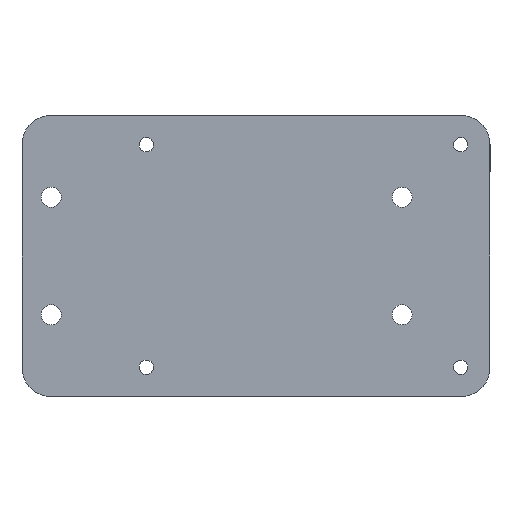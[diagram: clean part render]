
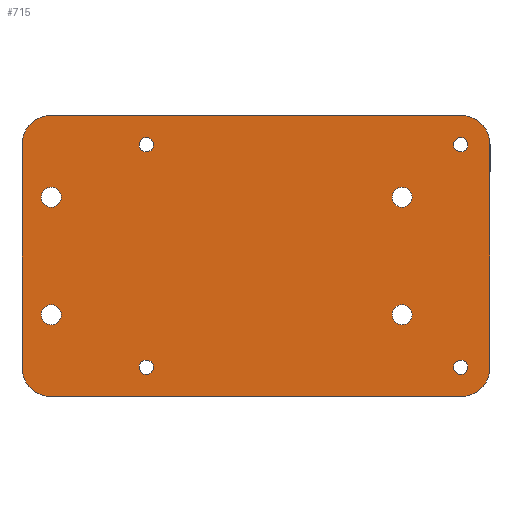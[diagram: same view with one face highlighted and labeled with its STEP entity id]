
A CAD part, front view. The second image highlights one B-rep face of the part: STEP entity #715.
In plain terms, the highlighted planar face has unit normal (0, -1, 0).
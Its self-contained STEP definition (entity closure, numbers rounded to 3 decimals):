
#15=FACE_BOUND('',#99,.T.);
#16=FACE_BOUND('',#100,.T.);
#17=FACE_BOUND('',#101,.T.);
#18=FACE_BOUND('',#102,.T.);
#19=FACE_BOUND('',#103,.T.);
#20=FACE_BOUND('',#104,.T.);
#21=FACE_BOUND('',#105,.T.);
#22=FACE_BOUND('',#106,.T.);
#37=PLANE('',#790);
#61=FACE_OUTER_BOUND('',#98,.T.);
#98=EDGE_LOOP('',(#533,#534,#535,#536,#537,#538,#539,#540));
#99=EDGE_LOOP('',(#541));
#100=EDGE_LOOP('',(#542));
#101=EDGE_LOOP('',(#543));
#102=EDGE_LOOP('',(#544));
#103=EDGE_LOOP('',(#545));
#104=EDGE_LOOP('',(#546));
#105=EDGE_LOOP('',(#547));
#106=EDGE_LOOP('',(#548));
#159=LINE('',#1169,#209);
#162=LINE('',#1175,#212);
#163=LINE('',#1179,#213);
#164=LINE('',#1183,#214);
#209=VECTOR('',#937,10.);
#212=VECTOR('',#942,10.);
#213=VECTOR('',#945,10.);
#214=VECTOR('',#948,10.);
#254=CIRCLE('',#787,5.);
#256=CIRCLE('',#791,5.);
#257=CIRCLE('',#792,5.);
#258=CIRCLE('',#793,5.);
#259=CIRCLE('',#794,1.7);
#260=CIRCLE('',#795,1.7);
#261=CIRCLE('',#796,1.23);
#262=CIRCLE('',#797,1.23);
#263=CIRCLE('',#798,1.23);
#264=CIRCLE('',#799,1.23);
#265=CIRCLE('',#800,1.7);
#266=CIRCLE('',#801,1.7);
#317=VERTEX_POINT('',#1159);
#318=VERTEX_POINT('',#1160);
#321=VERTEX_POINT('',#1168);
#323=VERTEX_POINT('',#1174);
#324=VERTEX_POINT('',#1176);
#325=VERTEX_POINT('',#1178);
#326=VERTEX_POINT('',#1180);
#327=VERTEX_POINT('',#1182);
#328=VERTEX_POINT('',#1185);
#329=VERTEX_POINT('',#1187);
#330=VERTEX_POINT('',#1189);
#331=VERTEX_POINT('',#1191);
#332=VERTEX_POINT('',#1193);
#333=VERTEX_POINT('',#1195);
#334=VERTEX_POINT('',#1197);
#335=VERTEX_POINT('',#1199);
#399=EDGE_CURVE('',#317,#318,#254,.T.);
#403=EDGE_CURVE('',#321,#318,#159,.T.);
#406=EDGE_CURVE('',#317,#323,#162,.T.);
#407=EDGE_CURVE('',#324,#323,#256,.T.);
#408=EDGE_CURVE('',#324,#325,#163,.T.);
#409=EDGE_CURVE('',#326,#325,#257,.T.);
#410=EDGE_CURVE('',#326,#327,#164,.T.);
#411=EDGE_CURVE('',#321,#327,#258,.T.);
#412=EDGE_CURVE('',#328,#328,#259,.T.);
#413=EDGE_CURVE('',#329,#329,#260,.T.);
#414=EDGE_CURVE('',#330,#330,#261,.T.);
#415=EDGE_CURVE('',#331,#331,#262,.T.);
#416=EDGE_CURVE('',#332,#332,#263,.T.);
#417=EDGE_CURVE('',#333,#333,#264,.T.);
#418=EDGE_CURVE('',#334,#334,#265,.T.);
#419=EDGE_CURVE('',#335,#335,#266,.T.);
#533=ORIENTED_EDGE('',*,*,#399,.F.);
#534=ORIENTED_EDGE('',*,*,#406,.T.);
#535=ORIENTED_EDGE('',*,*,#407,.F.);
#536=ORIENTED_EDGE('',*,*,#408,.T.);
#537=ORIENTED_EDGE('',*,*,#409,.F.);
#538=ORIENTED_EDGE('',*,*,#410,.T.);
#539=ORIENTED_EDGE('',*,*,#411,.F.);
#540=ORIENTED_EDGE('',*,*,#403,.T.);
#541=ORIENTED_EDGE('',*,*,#412,.T.);
#542=ORIENTED_EDGE('',*,*,#413,.T.);
#543=ORIENTED_EDGE('',*,*,#414,.T.);
#544=ORIENTED_EDGE('',*,*,#415,.T.);
#545=ORIENTED_EDGE('',*,*,#416,.T.);
#546=ORIENTED_EDGE('',*,*,#417,.T.);
#547=ORIENTED_EDGE('',*,*,#418,.T.);
#548=ORIENTED_EDGE('',*,*,#419,.T.);
#715=ADVANCED_FACE('',(#61,#15,#16,#17,#18,#19,#20,#21,#22),#37,.T.);
#787=AXIS2_PLACEMENT_3D('',#1161,#929,#930);
#790=AXIS2_PLACEMENT_3D('',#1173,#940,#941);
#791=AXIS2_PLACEMENT_3D('',#1177,#943,#944);
#792=AXIS2_PLACEMENT_3D('',#1181,#946,#947);
#793=AXIS2_PLACEMENT_3D('',#1184,#949,#950);
#794=AXIS2_PLACEMENT_3D('',#1186,#951,#952);
#795=AXIS2_PLACEMENT_3D('',#1188,#953,#954);
#796=AXIS2_PLACEMENT_3D('',#1190,#955,#956);
#797=AXIS2_PLACEMENT_3D('',#1192,#957,#958);
#798=AXIS2_PLACEMENT_3D('',#1194,#959,#960);
#799=AXIS2_PLACEMENT_3D('',#1196,#961,#962);
#800=AXIS2_PLACEMENT_3D('',#1198,#963,#964);
#801=AXIS2_PLACEMENT_3D('',#1200,#965,#966);
#929=DIRECTION('center_axis',(0.,1.,0.));
#930=DIRECTION('ref_axis',(-0.707,0.,-0.707));
#937=DIRECTION('',(0.,0.,-1.));
#940=DIRECTION('center_axis',(0.,-1.,0.));
#941=DIRECTION('ref_axis',(0.,0.,-1.));
#942=DIRECTION('',(1.,0.,0.));
#943=DIRECTION('center_axis',(0.,1.,0.));
#944=DIRECTION('ref_axis',(0.707,0.,-0.707));
#945=DIRECTION('',(0.,0.,1.));
#946=DIRECTION('center_axis',(0.,1.,0.));
#947=DIRECTION('ref_axis',(0.707,0.,0.707));
#948=DIRECTION('',(-1.,0.,0.));
#949=DIRECTION('center_axis',(0.,1.,0.));
#950=DIRECTION('ref_axis',(-0.707,0.,0.707));
#951=DIRECTION('center_axis',(0.,1.,0.));
#952=DIRECTION('ref_axis',(-1.,0.,0.));
#953=DIRECTION('center_axis',(0.,1.,0.));
#954=DIRECTION('ref_axis',(-1.,0.,0.));
#955=DIRECTION('center_axis',(0.,1.,0.));
#956=DIRECTION('ref_axis',(-1.,0.,0.));
#957=DIRECTION('center_axis',(0.,1.,0.));
#958=DIRECTION('ref_axis',(-1.,0.,0.));
#959=DIRECTION('center_axis',(0.,1.,0.));
#960=DIRECTION('ref_axis',(-1.,0.,0.));
#961=DIRECTION('center_axis',(0.,1.,0.));
#962=DIRECTION('ref_axis',(-1.,0.,0.));
#963=DIRECTION('center_axis',(0.,1.,0.));
#964=DIRECTION('ref_axis',(-1.,0.,0.));
#965=DIRECTION('center_axis',(0.,1.,0.));
#966=DIRECTION('ref_axis',(-1.,0.,0.));
#1159=CARTESIAN_POINT('',(-74.8,-5.,-47.973));
#1160=CARTESIAN_POINT('',(-79.8,-5.,-42.973));
#1161=CARTESIAN_POINT('Origin',(-74.8,-5.,-42.973));
#1168=CARTESIAN_POINT('',(-79.8,-5.,-5.));
#1169=CARTESIAN_POINT('',(-79.8,-5.,-47.973));
#1173=CARTESIAN_POINT('Origin',(-39.9,-5.,-23.986));
#1174=CARTESIAN_POINT('',(-5.,-5.,-47.973));
#1175=CARTESIAN_POINT('',(0.,-5.,-47.973));
#1176=CARTESIAN_POINT('',(0.,-5.,-42.973));
#1177=CARTESIAN_POINT('Origin',(-5.,-5.,-42.973));
#1178=CARTESIAN_POINT('',(0.,-5.,-5.));
#1179=CARTESIAN_POINT('',(0.,-5.,0.));
#1180=CARTESIAN_POINT('',(-5.,-5.,0.));
#1181=CARTESIAN_POINT('Origin',(-5.,-5.,-5.));
#1182=CARTESIAN_POINT('',(-74.8,-5.,0.));
#1183=CARTESIAN_POINT('',(-79.8,-5.,0.));
#1184=CARTESIAN_POINT('Origin',(-74.8,-5.,-5.));
#1185=CARTESIAN_POINT('',(-73.1,-5.,-13.986));
#1186=CARTESIAN_POINT('Origin',(-74.8,-5.,-13.986));
#1187=CARTESIAN_POINT('',(-73.1,-5.,-33.986));
#1188=CARTESIAN_POINT('Origin',(-74.8,-5.,-33.986));
#1189=CARTESIAN_POINT('',(-3.771,-5.,-42.973));
#1190=CARTESIAN_POINT('Origin',(-5.,-5.,-42.973));
#1191=CARTESIAN_POINT('',(-57.365,-5.,-5.));
#1192=CARTESIAN_POINT('Origin',(-58.594,-5.,-5.));
#1193=CARTESIAN_POINT('',(-57.365,-5.,-42.973));
#1194=CARTESIAN_POINT('Origin',(-58.594,-5.,-42.973));
#1195=CARTESIAN_POINT('',(-3.771,-5.,-5.));
#1196=CARTESIAN_POINT('Origin',(-5.,-5.,-5.));
#1197=CARTESIAN_POINT('',(-13.3,-5.,-33.987));
#1198=CARTESIAN_POINT('Origin',(-15.,-5.,-33.987));
#1199=CARTESIAN_POINT('',(-13.3,-5.,-13.986));
#1200=CARTESIAN_POINT('Origin',(-15.,-5.,-13.986));
